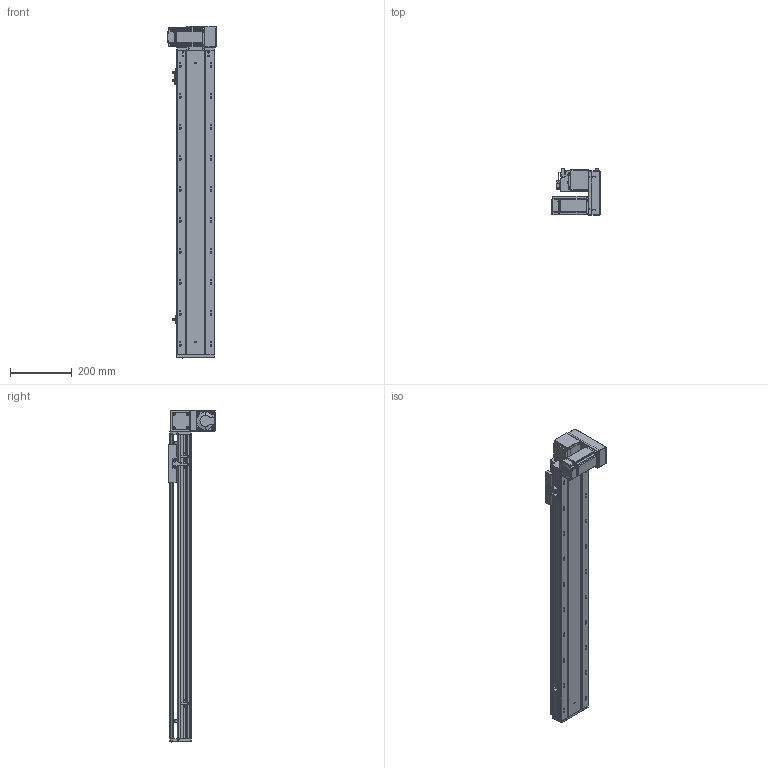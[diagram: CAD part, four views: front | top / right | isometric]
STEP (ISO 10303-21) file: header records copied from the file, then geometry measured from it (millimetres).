
FILE_DESCRIPTION (( 'STEP AP203' ), '1' );
FILE_NAME ('RY120-T-300-DR.SLDASM_750.step', '2021-03-01T03:35:17', ( '盈信电脑' ), ( '东莞市道滘镇水果街19号' ), 'SwSTEP 2.0', 'SolidWorks 2012', '' );
FILE_SCHEMA (( 'CONFIG_CONTROL_DESIGN' ));
Products named in the file (17): RY120-T主同步轮轴承压盖; RY120-T-300-DR.SLDASM_750; RY120-T萇儂假蚾啣; RY120-T萇儂欶; RY120-T蹟翐M4; 滅袉蝶18-10; RY120-T翋肮祭謫裔啣; RY120-T翋肮祭盓傅釱; 15; RY120-T肮祭湍揤踡輸2; RY120-T肮祭湍揤踡輸1; 覜茼ん672; RY120外置感应片(140共用）; RY120-T-300-DR倰第奻裔啣_750; RY120肮祭湍臏賑輸; RY120-T-300-DR倰第菁釱_750; RY120綴裔啣
Assembly tree (22 placements, depth 2):
  RY120-T-300-DR.SLDASM_750
    RY120-T-300-DR倰第菁釱_750
    RY120-T-300-DR倰第奻裔啣_750
    RY120肮祭湍臏賑輸
    RY120綴裔啣
    覜茼ん672  x3
    RY120外置感应片(140共用）
    RY120-T肮祭湍揤踡輸1
    RY120-T肮祭湍揤踡輸2
    RY120-T翋肮祭盓傅釱
    滅袉蝶18-10  x2
    RY120-T翋肮祭謫裔啣
    15
    RY120-T萇儂假蚾啣
    RY120-T蹟翐M4  x4
    RY120-T萇儂欶
    RY120-T主同步轮轴承压盖
Bounding box: 155.5 x 150 x 1071 mm (x, y, z)
Volume: 3063378.4 mm3; surface area: 1135201.7 mm2
Topology: 23 solids, 23 shells, 2910 faces, 7988 edges, 5142 vertices
Faces by surface type: plane 1446, cylinder 1136, cone 239, bspline 89
Entity records: 94175 total; most frequent: CARTESIAN_POINT 24784, ORIENTED_EDGE 14432, DIRECTION 13462, EDGE_CURVE 7216, VERTEX_POINT 4729, AXIS2_PLACEMENT_3D 4519, VECTOR 4424, LINE 4424
